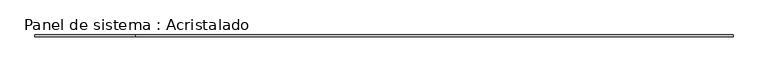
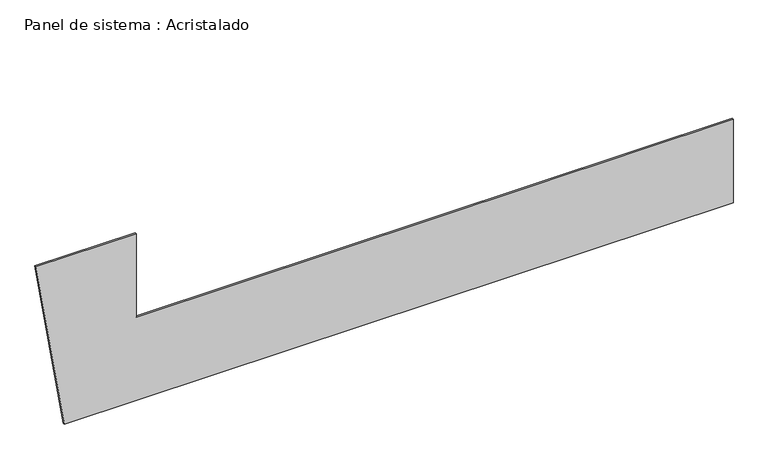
"""IFC4 building model written with IfcOpenShell, lengths in millimetres: plate geometry, Panel de sistema : Acristalado."""

from ifc_helpers import new_model, si_unit, frame, origin, place, context, project, spatial, polyline, outline, extrude, source, transform, mapped, element, save


def panel_de_sistema_acristalado_03b9b68e(model_context):
    return source(origin(), model_context, "Body", "SweptSolid", [
        extrude(outline(polyline([(0.0, -3631.5601044), (0.0, 3952.2426581), (1000.0, 3952.2426581), (1000.0, -2816.8032853), (2000.0, -2816.8032853), (2000.0, -3952.2426581), (0.0, -3631.5601044)])), frame((0.0, -10.0, 0.0), z_axis=(0.0, 1.0, 0.0), x_axis=(0.0, 0.0, 1.0)), (0.0, 0.0, 1.0), 20.0),
    ])


if __name__ == "__main__":
    model = new_model("IFC4")
    model_context = context("Model", 3, world=origin())
    ifc_project = project(units=[si_unit("LENGTHUNIT", "METRE", prefix="MILLI")], contexts=[model_context])
    site = spatial("IfcSite", under=ifc_project)
    building = spatial("IfcBuilding", under=site)
    placement = place(None, origin())
    panel_de_sistema_acristalado_shape = panel_de_sistema_acristalado_03b9b68e(model_context)
    element("IfcPlate", 1, ObjectType="Panel de sistema : Acristalado", at=placement, inside=building, context=model_context, shape_type="MappedRepresentation", body=[
        mapped(panel_de_sistema_acristalado_shape, transform((0.0, 0.0, 0.0), x_axis=(1.0, 0.0, 0.0), y_axis=(0.0, 1.0, 0.0), z_axis=(0.0, 0.0, 1.0))),
    ])
    save(model, "model.ifc")
